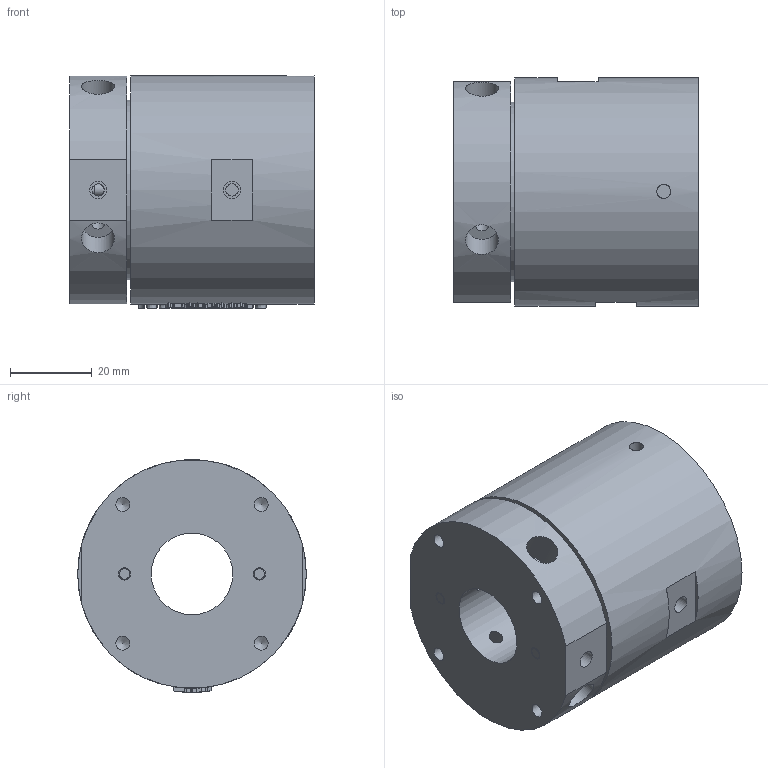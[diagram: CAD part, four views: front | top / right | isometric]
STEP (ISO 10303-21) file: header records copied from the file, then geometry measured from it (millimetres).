
FILE_DESCRIPTION(/* description */ (''),/* implementation_level */ '2;1');
FILE_NAME(/* name */ 'HQ02005-D20.dwg.stp',/* time_stamp */ '2024-12-13T19:02:08+08:00',/* author */ (''),/* organization */ (''),/* preprocessor_version */ 'ST-DEVELOPER v16.7',/* originating_system */ 'SIEMENS PLM Software NX 12.0',/* authorisation */ '');
FILE_SCHEMA (('AUTOMOTIVE_DESIGN { 1 0 10303 214 3 1 1 1 }'));
Length unit declared in the file: millimetre
Products named in the file (1): HX051A9C7FE4etih
Bounding box: 60 x 56 x 57 mm (x, y, z)
Volume: 121117.8 mm3; surface area: 25354.2 mm2
Topology: 1 solids, 1 shells, 389 faces, 998 edges, 667 vertices
Faces by surface type: plane 218, extrusion 69, cylinder 63, bspline 26, cone 13
Full cylindrical faces by diameter (mm): 2 x2, 2.5 x6, 2.95 x2, 3 x6, 3.4 x10, 4.2 x4, 8 x4, 20 x1, 33 x1, 35 x1, 44 x1, 47 x1, 56 x1
Entity records: 21975 total; most frequent: CARTESIAN_POINT 13778, ORIENTED_EDGE 1802, DIRECTION 1261, EDGE_CURVE 901, VERTEX_POINT 646, B_SPLINE_CURVE_WITH_KNOTS 601, AXIS2_PLACEMENT_3D 528, EDGE_LOOP 525
